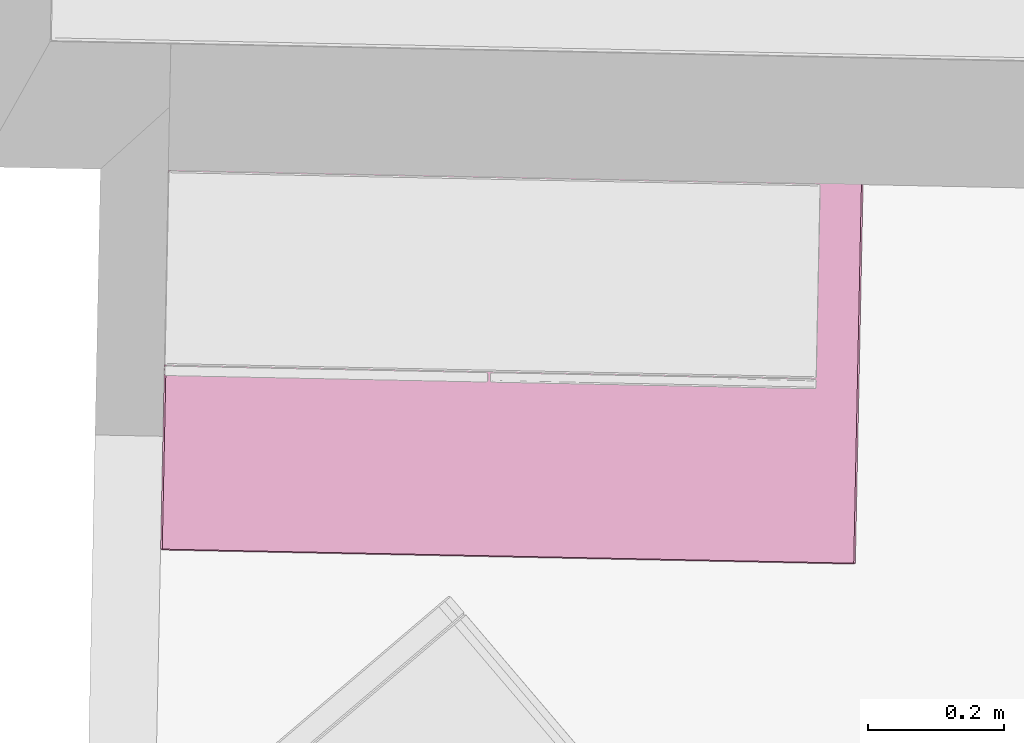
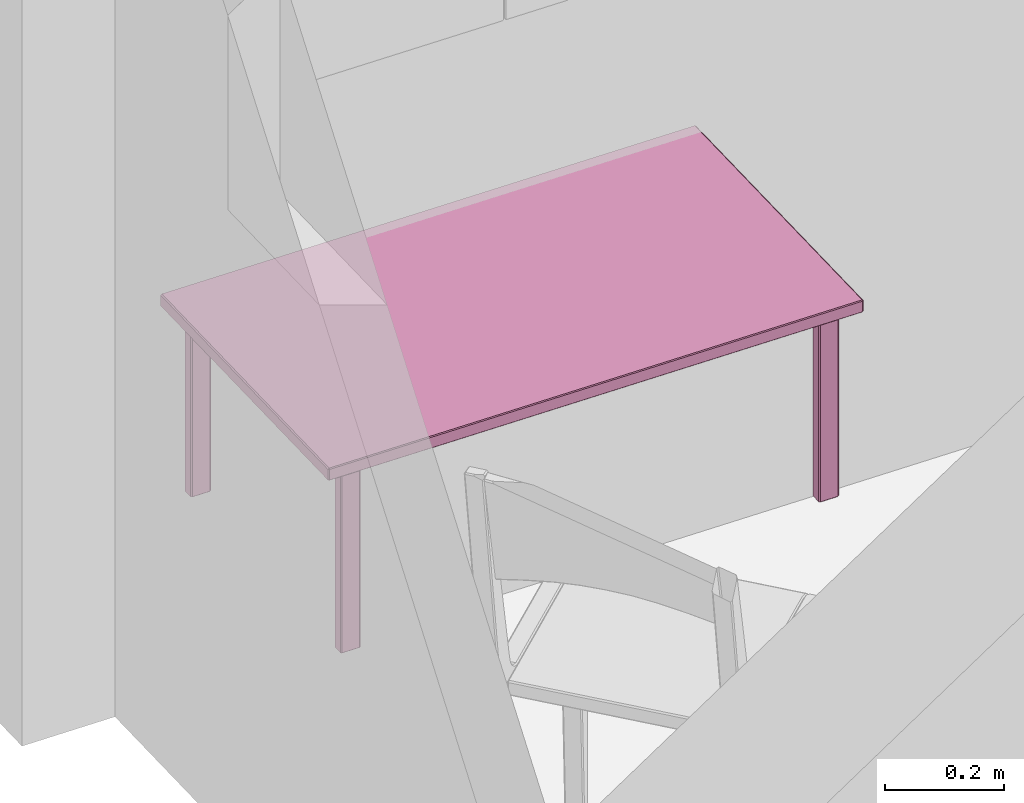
# One storey, part 2 of 8: 1 furnishing.
"""IFC2X3 building model written with IfcOpenShell, lengths in metres."""

from ifc_helpers import new_model, si_unit, frame, origin_with_axes, place, context, project, spatial, faceted_brep, type_object, element, save


model = new_model("IFC2X3")

# Units and contexts
model_context = context("Model", 3, precision=1e-05, world=origin_with_axes())
ifc_project = project(units=[si_unit("AREAUNIT", "SQUARE_METRE"), si_unit("LENGTHUNIT", "METRE")], contexts=[model_context])

# Site, building, storey, space
site_placement = place(None, origin_with_axes())
site = spatial("IfcSite", under=ifc_project, at=site_placement, Name="Site", CompositionType="ELEMENT")
building_placement = place(site_placement, origin_with_axes())
building = spatial("IfcBuilding", under=site, at=building_placement, Name="Building", CompositionType="ELEMENT")
storey_placement = place(building_placement, frame((0.0, 0.0, 2.8867046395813), z_axis=(0.0, 0.0, 1.0), x_axis=(1.0, 0.0, 0.0)))
storey = spatial("IfcBuildingStorey", under=building, at=storey_placement, Name="Story 1", CompositionType="ELEMENT", Elevation=2.8867045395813)
space_placement = place(storey_placement, frame((-7.6540163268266, -1.09431403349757, 0.0), z_axis=(0.0, 0.0, 1.0), x_axis=(1.0, 0.0, 0.0)))
space = spatial("IfcSpace", under=storey, at=space_placement, Name="008", CompositionType="ELEMENT", InteriorOrExteriorSpace="INTERNAL")

# Furnishing
furniture_type = type_object("IfcFurnitureType", Name="cf9d040f-a505-417f-be32-ec7ebc29aadf")
furnishing_placement = place(space_placement, frame((0.509489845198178, -0.276365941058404, 0.614910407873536), z_axis=(0.0, 0.0, 1.00000001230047), x_axis=(-0.0203700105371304, -0.999792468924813, 0.0)))
element("IfcFurnishingElement", 1, at=furnishing_placement, inside=space, type_object=furniture_type, Name="Table", ObjectType="Table", context=model_context, shape_type="Brep", body=[
    faceted_brep([(0.2908, 0.5125, 0.1784), (-0.2908, 0.5125, 0.1784), (0.2908, 0.5125, 0.2001), (-0.2908, 0.5125, 0.2001), (0.2908, 0.5125, 0.2001), (-0.2908, 0.5125, 0.1784), (0.2493, -0.4746, 0.183), (0.2493, -0.4409, 0.183), (0.2493, -0.4746, -0.2001), (0.2493, -0.4409, -0.2001), (0.2493, -0.4746, -0.2001), (0.2493, -0.4409, 0.183), (0.2699, -0.4771, 0.183), (0.2508, -0.4771, 0.183), (0.2699, -0.4771, -0.2001), (0.2508, -0.4771, -0.2001), (0.2699, -0.4771, -0.2001), (0.2508, -0.4771, 0.183), (0.2714, -0.4409, 0.183), (0.2714, -0.4746, 0.183), (0.2714, -0.4409, -0.2001), (0.2714, -0.4746, -0.2001), (0.2714, -0.4409, -0.2001), (0.2714, -0.4746, 0.183), (0.2508, -0.4384, 0.183), (0.2699, -0.4384, 0.183), (0.2508, -0.4384, -0.2001), (0.2699, -0.4384, -0.2001), (0.2508, -0.4384, -0.2001), (0.2699, -0.4384, 0.183), (0.2493, 0.4745, 0.183), (0.2493, 0.4745, -0.2001), (0.2493, 0.4409, 0.183), (0.2493, 0.4409, -0.2001), (0.2493, 0.4409, 0.183), (0.2493, 0.4745, -0.2001), (0.2699, 0.4771, 0.183), (0.2699, 0.4771, -0.2001), (0.2508, 0.4771, 0.183), (0.2508, 0.4771, -0.2001), (0.2508, 0.4771, 0.183), (0.2699, 0.4771, -0.2001), (0.2714, 0.4409, 0.183), (0.2714, 0.4409, -0.2001), (0.2714, 0.4745, 0.183), (0.2714, 0.4745, -0.2001), (0.2714, 0.4745, 0.183), (0.2714, 0.4409, -0.2001), (0.2508, 0.4384, 0.183), (0.2508, 0.4384, -0.2001), (0.2699, 0.4384, 0.183), (0.2699, 0.4384, -0.2001), (0.2699, 0.4384, 0.183), (0.2508, 0.4384, -0.2001), (0.2923, 0.51, 0.1784), (0.2923, 0.51, 0.2001), (0.2923, -0.51, 0.1784), (0.2923, -0.51, 0.2001), (0.2923, -0.51, 0.1784), (0.2923, 0.51, 0.2001), (-0.2923, 0.51, 0.2001), (-0.2923, 0.51, 0.1784), (-0.2923, -0.51, 0.2001), (-0.2923, -0.51, 0.1784), (-0.2923, -0.51, 0.2001), (-0.2923, 0.51, 0.1784), (-0.2493, -0.4746, 0.183), (-0.2493, -0.4746, -0.2001), (-0.2493, -0.4409, 0.183), (-0.2493, -0.4409, -0.2001), (-0.2493, -0.4409, 0.183), (-0.2493, -0.4746, -0.2001), (-0.2699, -0.4771, 0.183), (-0.2699, -0.4771, -0.2001), (-0.2508, -0.4771, 0.183), (-0.2508, -0.4771, -0.2001), (-0.2508, -0.4771, 0.183), (-0.2699, -0.4771, -0.2001), (-0.2714, -0.4409, 0.183), (-0.2714, -0.4409, -0.2001), (-0.2714, -0.4746, 0.183), (-0.2714, -0.4746, -0.2001), (-0.2714, -0.4746, 0.183), (-0.2714, -0.4409, -0.2001), (-0.2508, -0.4384, 0.183), (-0.2508, -0.4384, -0.2001), (-0.2699, -0.4384, 0.183), (-0.2699, -0.4384, -0.2001), (-0.2699, -0.4384, 0.183), (-0.2508, -0.4384, -0.2001), (-0.2493, 0.4745, 0.183), (-0.2493, 0.4409, 0.183), (-0.2493, 0.4745, -0.2001), (-0.2493, 0.4409, -0.2001), (-0.2493, 0.4745, -0.2001), (-0.2493, 0.4409, 0.183), (-0.2699, 0.4771, 0.183), (-0.2508, 0.4771, 0.183), (-0.2699, 0.4771, -0.2001), (-0.2508, 0.4771, -0.2001), (-0.2699, 0.4771, -0.2001), (-0.2508, 0.4771, 0.183), (-0.2714, 0.4409, 0.183), (-0.2714, 0.4745, 0.183), (-0.2714, 0.4409, -0.2001), (-0.2714, 0.4745, -0.2001), (-0.2714, 0.4409, -0.2001), (-0.2714, 0.4745, 0.183), (-0.2508, 0.4384, 0.183), (-0.2699, 0.4384, 0.183), (-0.2508, 0.4384, -0.2001), (-0.2699, 0.4384, -0.2001), (-0.2508, 0.4384, -0.2001), (-0.2699, 0.4384, 0.183), (-0.2908, 0.51, 0.2019), (-0.2908, -0.51, 0.2019), (0.2908, 0.51, 0.2019), (0.2908, -0.51, 0.2019), (0.2908, 0.51, 0.2019), (-0.2908, -0.51, 0.2019), (0.2908, -0.5125, 0.1784), (0.2908, -0.5125, 0.2001), (-0.2908, -0.5125, 0.1784), (-0.2908, -0.5125, 0.2001), (-0.2908, -0.5125, 0.1784), (0.2908, -0.5125, 0.2001), (0.2908, -0.51, 0.1767), (-0.2908, -0.51, 0.1767), (0.2908, 0.51, 0.1767), (-0.2908, 0.51, 0.1767), (0.2908, 0.51, 0.1767), (-0.2908, -0.51, 0.1767), (0.2699, -0.4746, 0.1848), (0.2699, -0.4409, 0.1848), (0.2508, -0.4746, 0.1848), (0.2508, -0.4409, 0.1848), (0.2508, -0.4746, 0.1848), (0.2699, -0.4409, 0.1848), (0.2699, -0.4409, -0.2019), (0.2699, -0.4746, -0.2019), (0.2508, -0.4409, -0.2019), (0.2508, -0.4746, -0.2019), (0.2508, -0.4409, -0.2019), (0.2699, -0.4746, -0.2019), (0.2699, 0.4745, -0.2019), (0.2699, 0.4409, -0.2019), (0.2508, 0.4745, -0.2019), (0.2508, 0.4409, -0.2019), (0.2508, 0.4745, -0.2019), (0.2699, 0.4409, -0.2019), (0.2699, 0.4409, 0.1848), (0.2699, 0.4745, 0.1848), (0.2508, 0.4409, 0.1848), (0.2508, 0.4745, 0.1848), (0.2508, 0.4409, 0.1848), (0.2699, 0.4745, 0.1848), (-0.2699, -0.4746, -0.2019), (-0.2699, -0.4409, -0.2019), (-0.2508, -0.4746, -0.2019), (-0.2508, -0.4409, -0.2019), (-0.2508, -0.4746, -0.2019), (-0.2699, -0.4409, -0.2019), (-0.2699, -0.4409, 0.1848), (-0.2699, -0.4746, 0.1848), (-0.2508, -0.4409, 0.1848), (-0.2508, -0.4746, 0.1848), (-0.2508, -0.4409, 0.1848), (-0.2699, -0.4746, 0.1848), (-0.2699, 0.4745, 0.1848), (-0.2699, 0.4409, 0.1848), (-0.2508, 0.4745, 0.1848), (-0.2508, 0.4409, 0.1848), (-0.2508, 0.4745, 0.1848), (-0.2699, 0.4409, 0.1848), (-0.2699, 0.4409, -0.2019), (-0.2699, 0.4745, -0.2019), (-0.2508, 0.4409, -0.2019), (-0.2508, 0.4745, -0.2019), (-0.2508, 0.4409, -0.2019), (-0.2699, 0.4745, -0.2019), (-0.2908, 0.51, 0.2019), (-0.2908, 0.5125, 0.2001), (-0.2923, 0.51, 0.2001), (0.2508, -0.4409, -0.2019), (0.2493, -0.4409, -0.2001), (0.2508, -0.4384, -0.2001), (0.2508, -0.4746, -0.2019), (0.2508, -0.4771, -0.2001), (0.2493, -0.4746, -0.2001), (0.2699, -0.4746, -0.2019), (0.2714, -0.4746, -0.2001), (0.2699, -0.4771, -0.2001), (0.2699, -0.4409, -0.2019), (0.2699, -0.4384, -0.2001), (0.2714, -0.4409, -0.2001), (0.2508, -0.4409, 0.1848), (0.2508, -0.4384, 0.183), (0.2493, -0.4409, 0.183), (0.2508, 0.4384, -0.2001), (0.2493, 0.4409, -0.2001), (0.2508, 0.4409, -0.2019), (0.2508, 0.4745, 0.1848), (0.2508, 0.4771, 0.183), (0.2493, 0.4745, 0.183), (0.2699, 0.4745, 0.1848), (0.2714, 0.4745, 0.183), (0.2699, 0.4771, 0.183), (0.2699, 0.4409, 0.1848), (0.2699, 0.4384, 0.183), (0.2714, 0.4409, 0.183), (0.2908, -0.5125, 0.2001), (0.2923, -0.51, 0.2001), (0.2908, -0.51, 0.2019), (0.2908, 0.51, 0.2019), (0.2923, 0.51, 0.2001), (0.2908, 0.5125, 0.2001), (-0.2908, -0.5125, 0.1784), (-0.2923, -0.51, 0.1784), (-0.2908, -0.51, 0.1767), (-0.2908, 0.51, 0.1767), (-0.2923, 0.51, 0.1784), (-0.2908, 0.5125, 0.1784), (-0.2508, -0.4384, -0.2001), (-0.2493, -0.4409, -0.2001), (-0.2508, -0.4409, -0.2019), (-0.2508, -0.4746, 0.1848), (-0.2508, -0.4771, 0.183), (-0.2493, -0.4746, 0.183), (-0.2699, -0.4746, 0.1848), (-0.2714, -0.4746, 0.183), (-0.2699, -0.4771, 0.183), (-0.2699, -0.4409, 0.1848), (-0.2699, -0.4384, 0.183), (-0.2714, -0.4409, 0.183), (-0.2508, 0.4409, -0.2019), (-0.2493, 0.4409, -0.2001), (-0.2508, 0.4384, -0.2001), (-0.2508, 0.4745, -0.2019), (-0.2508, 0.4771, -0.2001), (-0.2493, 0.4745, -0.2001), (-0.2699, 0.4745, -0.2019), (-0.2714, 0.4745, -0.2001), (-0.2699, 0.4771, -0.2001), (-0.2699, 0.4409, -0.2019), (-0.2699, 0.4384, -0.2001), (-0.2714, 0.4409, -0.2001), (-0.2508, 0.4409, 0.1848), (-0.2508, 0.4384, 0.183), (-0.2493, 0.4409, 0.183), (-0.2908, -0.5125, 0.2001), (-0.2908, -0.51, 0.2019), (-0.2923, -0.51, 0.2001), (0.2908, -0.5125, 0.1784), (0.2908, -0.51, 0.1767), (0.2923, -0.51, 0.1784), (0.2923, 0.51, 0.1784), (0.2908, 0.51, 0.1767), (0.2908, 0.5125, 0.1784), (0.2699, -0.4384, 0.183), (0.2699, -0.4409, 0.1848), (0.2714, -0.4409, 0.183), (0.2714, -0.4746, 0.183), (0.2699, -0.4746, 0.1848), (0.2699, -0.4771, 0.183), (0.2508, -0.4771, 0.183), (0.2508, -0.4746, 0.1848), (0.2493, -0.4746, 0.183), (0.2699, 0.4384, -0.2001), (0.2699, 0.4409, -0.2019), (0.2714, 0.4409, -0.2001), (0.2714, 0.4745, -0.2001), (0.2699, 0.4745, -0.2019), (0.2699, 0.4771, -0.2001), (0.2508, 0.4771, -0.2001), (0.2508, 0.4745, -0.2019), (0.2493, 0.4745, -0.2001), (0.2508, 0.4384, 0.183), (0.2508, 0.4409, 0.1848), (0.2493, 0.4409, 0.183), (-0.2699, -0.4384, -0.2001), (-0.2699, -0.4409, -0.2019), (-0.2714, -0.4409, -0.2001), (-0.2714, -0.4746, -0.2001), (-0.2699, -0.4746, -0.2019), (-0.2699, -0.4771, -0.2001), (-0.2508, -0.4771, -0.2001), (-0.2508, -0.4746, -0.2019), (-0.2493, -0.4746, -0.2001), (-0.2508, -0.4384, 0.183), (-0.2508, -0.4409, 0.1848), (-0.2493, -0.4409, 0.183), (-0.2699, 0.4384, 0.183), (-0.2699, 0.4409, 0.1848), (-0.2714, 0.4409, 0.183), (-0.2714, 0.4745, 0.183), (-0.2699, 0.4745, 0.1848), (-0.2699, 0.4771, 0.183), (-0.2508, 0.4771, 0.183), (-0.2508, 0.4745, 0.1848), (-0.2493, 0.4745, 0.183), (-0.2908, 0.5125, 0.2001), (-0.2908, 0.5125, 0.1784), (-0.2923, 0.51, 0.2001), (-0.2923, 0.51, 0.1784), (-0.2923, 0.51, 0.2001), (-0.2908, 0.5125, 0.1784), (-0.2908, 0.5125, 0.1784), (0.2908, 0.5125, 0.1784), (-0.2908, 0.51, 0.1767), (0.2908, 0.51, 0.1767), (-0.2908, 0.51, 0.1767), (0.2908, 0.5125, 0.1784), (0.2908, 0.5125, 0.1784), (0.2908, 0.5125, 0.2001), (0.2923, 0.51, 0.1784), (0.2923, 0.51, 0.2001), (0.2923, 0.51, 0.1784), (0.2908, 0.5125, 0.2001), (0.2908, 0.5125, 0.2001), (-0.2908, 0.5125, 0.2001), (0.2908, 0.51, 0.2019), (-0.2908, 0.51, 0.2019), (0.2908, 0.51, 0.2019), (-0.2908, 0.5125, 0.2001), (0.2493, -0.4409, -0.2001), (0.2493, -0.4409, 0.183), (0.2508, -0.4384, -0.2001), (0.2508, -0.4384, 0.183), (0.2508, -0.4384, -0.2001), (0.2493, -0.4409, 0.183), (0.2493, -0.4409, 0.183), (0.2493, -0.4746, 0.183), (0.2508, -0.4409, 0.1848), (0.2508, -0.4746, 0.1848), (0.2508, -0.4409, 0.1848), (0.2493, -0.4746, 0.183), (0.2493, -0.4746, 0.183), (0.2493, -0.4746, -0.2001), (0.2508, -0.4771, 0.183), (0.2508, -0.4771, -0.2001), (0.2508, -0.4771, 0.183), (0.2493, -0.4746, -0.2001), (0.2493, -0.4746, -0.2001), (0.2493, -0.4409, -0.2001), (0.2508, -0.4746, -0.2019), (0.2508, -0.4409, -0.2019), (0.2508, -0.4746, -0.2019), (0.2493, -0.4409, -0.2001), (0.2508, -0.4771, 0.183), (0.2699, -0.4771, 0.183), (0.2508, -0.4746, 0.1848), (0.2699, -0.4746, 0.1848), (0.2508, -0.4746, 0.1848), (0.2699, -0.4771, 0.183), (0.2699, -0.4771, 0.183), (0.2699, -0.4771, -0.2001), (0.2714, -0.4746, 0.183), (0.2714, -0.4746, -0.2001), (0.2714, -0.4746, 0.183), (0.2699, -0.4771, -0.2001), (0.2699, -0.4771, -0.2001), (0.2508, -0.4771, -0.2001), (0.2699, -0.4746, -0.2019), (0.2508, -0.4746, -0.2019), (0.2699, -0.4746, -0.2019), (0.2508, -0.4771, -0.2001), (0.2714, -0.4746, 0.183), (0.2714, -0.4409, 0.183), (0.2699, -0.4746, 0.1848), (0.2699, -0.4409, 0.1848), (0.2699, -0.4746, 0.1848), (0.2714, -0.4409, 0.183), (0.2714, -0.4409, 0.183), (0.2714, -0.4409, -0.2001), (0.2699, -0.4384, 0.183), (0.2699, -0.4384, -0.2001), (0.2699, -0.4384, 0.183), (0.2714, -0.4409, -0.2001), (0.2714, -0.4409, -0.2001), (0.2714, -0.4746, -0.2001), (0.2699, -0.4409, -0.2019), (0.2699, -0.4746, -0.2019), (0.2699, -0.4409, -0.2019), (0.2714, -0.4746, -0.2001), (0.2699, -0.4384, 0.183), (0.2508, -0.4384, 0.183), (0.2699, -0.4409, 0.1848), (0.2508, -0.4409, 0.1848), (0.2699, -0.4409, 0.1848), (0.2508, -0.4384, 0.183), (0.2508, -0.4384, -0.2001), (0.2699, -0.4384, -0.2001), (0.2508, -0.4409, -0.2019), (0.2699, -0.4409, -0.2019), (0.2508, -0.4409, -0.2019), (0.2699, -0.4384, -0.2001), (0.2493, 0.4409, -0.2001), (0.2493, 0.4745, -0.2001), (0.2508, 0.4409, -0.2019), (0.2508, 0.4745, -0.2019), (0.2508, 0.4409, -0.2019), (0.2493, 0.4745, -0.2001), (0.2493, 0.4745, -0.2001), (0.2493, 0.4745, 0.183), (0.2508, 0.4771, -0.2001), (0.2508, 0.4771, 0.183), (0.2508, 0.4771, -0.2001), (0.2493, 0.4745, 0.183), (0.2493, 0.4745, 0.183), (0.2493, 0.4409, 0.183), (0.2508, 0.4745, 0.1848), (0.2508, 0.4409, 0.1848), (0.2508, 0.4745, 0.1848), (0.2493, 0.4409, 0.183), (0.2493, 0.4409, 0.183), (0.2493, 0.4409, -0.2001), (0.2508, 0.4384, 0.183), (0.2508, 0.4384, -0.2001), (0.2508, 0.4384, 0.183), (0.2493, 0.4409, -0.2001), (0.2508, 0.4771, -0.2001), (0.2699, 0.4771, -0.2001), (0.2508, 0.4745, -0.2019), (0.2699, 0.4745, -0.2019), (0.2508, 0.4745, -0.2019), (0.2699, 0.4771, -0.2001), (0.2699, 0.4771, -0.2001), (0.2699, 0.4771, 0.183), (0.2714, 0.4745, -0.2001), (0.2714, 0.4745, 0.183), (0.2714, 0.4745, -0.2001), (0.2699, 0.4771, 0.183), (0.2699, 0.4771, 0.183), (0.2508, 0.4771, 0.183), (0.2699, 0.4745, 0.1848), (0.2508, 0.4745, 0.1848), (0.2699, 0.4745, 0.1848), (0.2508, 0.4771, 0.183), (0.2714, 0.4745, -0.2001), (0.2714, 0.4409, -0.2001), (0.2699, 0.4745, -0.2019), (0.2699, 0.4409, -0.2019), (0.2699, 0.4745, -0.2019), (0.2714, 0.4409, -0.2001), (0.2714, 0.4409, -0.2001), (0.2714, 0.4409, 0.183), (0.2699, 0.4384, -0.2001), (0.2699, 0.4384, 0.183), (0.2699, 0.4384, -0.2001), (0.2714, 0.4409, 0.183), (0.2714, 0.4409, 0.183), (0.2714, 0.4745, 0.183), (0.2699, 0.4409, 0.1848), (0.2699, 0.4745, 0.1848), (0.2699, 0.4409, 0.1848), (0.2714, 0.4745, 0.183), (0.2699, 0.4384, -0.2001), (0.2508, 0.4384, -0.2001), (0.2699, 0.4409, -0.2019), (0.2508, 0.4409, -0.2019), (0.2699, 0.4409, -0.2019), (0.2508, 0.4384, -0.2001), (0.2508, 0.4384, 0.183), (0.2699, 0.4384, 0.183), (0.2508, 0.4409, 0.1848), (0.2699, 0.4409, 0.1848), (0.2508, 0.4409, 0.1848), (0.2699, 0.4384, 0.183), (0.2923, -0.51, 0.2001), (0.2923, 0.51, 0.2001), (0.2908, -0.51, 0.2019), (0.2908, 0.51, 0.2019), (0.2908, -0.51, 0.2019), (0.2923, 0.51, 0.2001), (0.2923, 0.51, 0.1784), (0.2923, -0.51, 0.1784), (0.2908, 0.51, 0.1767), (0.2908, -0.51, 0.1767), (0.2908, 0.51, 0.1767), (0.2923, -0.51, 0.1784), (0.2923, -0.51, 0.1784), (0.2923, -0.51, 0.2001), (0.2908, -0.5125, 0.1784), (0.2908, -0.5125, 0.2001), (0.2908, -0.5125, 0.1784), (0.2923, -0.51, 0.2001), (-0.2923, -0.51, 0.1784), (-0.2923, 0.51, 0.1784), (-0.2908, -0.51, 0.1767), (-0.2908, 0.51, 0.1767), (-0.2908, -0.51, 0.1767), (-0.2923, 0.51, 0.1784), (-0.2923, 0.51, 0.2001), (-0.2923, -0.51, 0.2001), (-0.2908, 0.51, 0.2019), (-0.2908, -0.51, 0.2019), (-0.2908, 0.51, 0.2019), (-0.2923, -0.51, 0.2001), (-0.2923, -0.51, 0.2001), (-0.2923, -0.51, 0.1784), (-0.2908, -0.5125, 0.2001), (-0.2908, -0.5125, 0.1784), (-0.2908, -0.5125, 0.2001), (-0.2923, -0.51, 0.1784), (-0.2493, -0.4409, -0.2001), (-0.2493, -0.4746, -0.2001), (-0.2508, -0.4409, -0.2019), (-0.2508, -0.4746, -0.2019), (-0.2508, -0.4409, -0.2019), (-0.2493, -0.4746, -0.2001), (-0.2493, -0.4746, -0.2001), (-0.2493, -0.4746, 0.183), (-0.2508, -0.4771, -0.2001), (-0.2508, -0.4771, 0.183), (-0.2508, -0.4771, -0.2001), (-0.2493, -0.4746, 0.183), (-0.2493, -0.4746, 0.183), (-0.2493, -0.4409, 0.183), (-0.2508, -0.4746, 0.1848), (-0.2508, -0.4409, 0.1848), (-0.2508, -0.4746, 0.1848), (-0.2493, -0.4409, 0.183), (-0.2493, -0.4409, 0.183), (-0.2493, -0.4409, -0.2001), (-0.2508, -0.4384, 0.183), (-0.2508, -0.4384, -0.2001), (-0.2508, -0.4384, 0.183), (-0.2493, -0.4409, -0.2001), (-0.2508, -0.4771, -0.2001), (-0.2699, -0.4771, -0.2001), (-0.2508, -0.4746, -0.2019), (-0.2699, -0.4746, -0.2019), (-0.2508, -0.4746, -0.2019), (-0.2699, -0.4771, -0.2001), (-0.2699, -0.4771, -0.2001), (-0.2699, -0.4771, 0.183), (-0.2714, -0.4746, -0.2001), (-0.2714, -0.4746, 0.183), (-0.2714, -0.4746, -0.2001), (-0.2699, -0.4771, 0.183), (-0.2699, -0.4771, 0.183), (-0.2508, -0.4771, 0.183), (-0.2699, -0.4746, 0.1848), (-0.2508, -0.4746, 0.1848), (-0.2699, -0.4746, 0.1848), (-0.2508, -0.4771, 0.183), (-0.2714, -0.4746, -0.2001), (-0.2714, -0.4409, -0.2001), (-0.2699, -0.4746, -0.2019), (-0.2699, -0.4409, -0.2019), (-0.2699, -0.4746, -0.2019), (-0.2714, -0.4409, -0.2001), (-0.2714, -0.4409, -0.2001), (-0.2714, -0.4409, 0.183), (-0.2699, -0.4384, -0.2001), (-0.2699, -0.4384, 0.183), (-0.2699, -0.4384, -0.2001), (-0.2714, -0.4409, 0.183), (-0.2714, -0.4409, 0.183), (-0.2714, -0.4746, 0.183), (-0.2699, -0.4409, 0.1848), (-0.2699, -0.4746, 0.1848), (-0.2699, -0.4409, 0.1848), (-0.2714, -0.4746, 0.183), (-0.2699, -0.4384, -0.2001), (-0.2508, -0.4384, -0.2001), (-0.2699, -0.4409, -0.2019), (-0.2508, -0.4409, -0.2019), (-0.2699, -0.4409, -0.2019), (-0.2508, -0.4384, -0.2001), (-0.2508, -0.4384, 0.183), (-0.2699, -0.4384, 0.183), (-0.2508, -0.4409, 0.1848), (-0.2699, -0.4409, 0.1848), (-0.2508, -0.4409, 0.1848), (-0.2699, -0.4384, 0.183), (-0.2493, 0.4409, -0.2001), (-0.2493, 0.4409, 0.183), (-0.2508, 0.4384, -0.2001), (-0.2508, 0.4384, 0.183), (-0.2508, 0.4384, -0.2001), (-0.2493, 0.4409, 0.183), (-0.2493, 0.4409, 0.183), (-0.2493, 0.4745, 0.183), (-0.2508, 0.4409, 0.1848), (-0.2508, 0.4745, 0.1848), (-0.2508, 0.4409, 0.1848), (-0.2493, 0.4745, 0.183), (-0.2493, 0.4745, 0.183), (-0.2493, 0.4745, -0.2001), (-0.2508, 0.4771, 0.183), (-0.2508, 0.4771, -0.2001), (-0.2508, 0.4771, 0.183), (-0.2493, 0.4745, -0.2001), (-0.2493, 0.4745, -0.2001), (-0.2493, 0.4409, -0.2001), (-0.2508, 0.4745, -0.2019), (-0.2508, 0.4409, -0.2019), (-0.2508, 0.4745, -0.2019), (-0.2493, 0.4409, -0.2001), (-0.2508, 0.4771, 0.183), (-0.2699, 0.4771, 0.183), (-0.2508, 0.4745, 0.1848), (-0.2699, 0.4745, 0.1848), (-0.2508, 0.4745, 0.1848), (-0.2699, 0.4771, 0.183), (-0.2699, 0.4771, 0.183), (-0.2699, 0.4771, -0.2001), (-0.2714, 0.4745, 0.183), (-0.2714, 0.4745, -0.2001), (-0.2714, 0.4745, 0.183), (-0.2699, 0.4771, -0.2001), (-0.2699, 0.4771, -0.2001), (-0.2508, 0.4771, -0.2001), (-0.2699, 0.4745, -0.2019), (-0.2508, 0.4745, -0.2019), (-0.2699, 0.4745, -0.2019), (-0.2508, 0.4771, -0.2001), (-0.2714, 0.4745, 0.183), (-0.2714, 0.4409, 0.183), (-0.2699, 0.4745, 0.1848), (-0.2699, 0.4409, 0.1848), (-0.2699, 0.4745, 0.1848), (-0.2714, 0.4409, 0.183), (-0.2714, 0.4409, 0.183), (-0.2714, 0.4409, -0.2001), (-0.2699, 0.4384, 0.183), (-0.2699, 0.4384, -0.2001), (-0.2699, 0.4384, 0.183), (-0.2714, 0.4409, -0.2001), (-0.2714, 0.4409, -0.2001), (-0.2714, 0.4745, -0.2001), (-0.2699, 0.4409, -0.2019), (-0.2699, 0.4745, -0.2019), (-0.2699, 0.4409, -0.2019), (-0.2714, 0.4745, -0.2001), (-0.2699, 0.4384, 0.183), (-0.2508, 0.4384, 0.183), (-0.2699, 0.4409, 0.1848), (-0.2508, 0.4409, 0.1848), (-0.2699, 0.4409, 0.1848), (-0.2508, 0.4384, 0.183), (-0.2508, 0.4384, -0.2001), (-0.2699, 0.4384, -0.2001), (-0.2508, 0.4409, -0.2019), (-0.2699, 0.4409, -0.2019), (-0.2508, 0.4409, -0.2019), (-0.2699, 0.4384, -0.2001), (0.2908, -0.51, 0.2019), (-0.2908, -0.51, 0.2019), (0.2908, -0.5125, 0.2001), (-0.2908, -0.5125, 0.2001), (0.2908, -0.5125, 0.2001), (-0.2908, -0.51, 0.2019), (0.2908, -0.5125, 0.1784), (-0.2908, -0.5125, 0.1784), (0.2908, -0.51, 0.1767), (-0.2908, -0.51, 0.1767), (0.2908, -0.51, 0.1767), (-0.2908, -0.5125, 0.1784)], [[[0, 1, 2]], [[3, 4, 5]], [[6, 7, 8]], [[9, 10, 11]], [[12, 13, 14]], [[15, 16, 17]], [[18, 19, 20]], [[21, 22, 23]], [[24, 25, 26]], [[27, 28, 29]], [[30, 31, 32]], [[33, 34, 35]], [[36, 37, 38]], [[39, 40, 41]], [[42, 43, 44]], [[45, 46, 47]], [[48, 49, 50]], [[51, 52, 53]], [[54, 55, 56]], [[57, 58, 59]], [[60, 61, 62]], [[63, 64, 65]], [[66, 67, 68]], [[69, 70, 71]], [[72, 73, 74]], [[75, 76, 77]], [[78, 79, 80]], [[81, 82, 83]], [[84, 85, 86]], [[87, 88, 89]], [[90, 91, 92]], [[93, 94, 95]], [[96, 97, 98]], [[99, 100, 101]], [[102, 103, 104]], [[105, 106, 107]], [[108, 109, 110]], [[111, 112, 113]], [[114, 115, 116]], [[117, 118, 119]], [[120, 121, 122]], [[123, 124, 125]], [[126, 127, 128]], [[129, 130, 131]], [[132, 133, 134]], [[135, 136, 137]], [[138, 139, 140]], [[141, 142, 143]], [[144, 145, 146]], [[147, 148, 149]], [[150, 151, 152]], [[153, 154, 155]], [[156, 157, 158]], [[159, 160, 161]], [[162, 163, 164]], [[165, 166, 167]], [[168, 169, 170]], [[171, 172, 173]], [[174, 175, 176]], [[177, 178, 179]], [[180, 181, 182]], [[183, 184, 185]], [[186, 187, 188]], [[189, 190, 191]], [[192, 193, 194]], [[195, 196, 197]], [[198, 199, 200]], [[201, 202, 203]], [[204, 205, 206]], [[207, 208, 209]], [[210, 211, 212]], [[213, 214, 215]], [[216, 217, 218]], [[219, 220, 221]], [[222, 223, 224]], [[225, 226, 227]], [[228, 229, 230]], [[231, 232, 233]], [[234, 235, 236]], [[237, 238, 239]], [[240, 241, 242]], [[243, 244, 245]], [[246, 247, 248]], [[249, 250, 251]], [[252, 253, 254]], [[255, 256, 257]], [[258, 259, 260]], [[261, 262, 263]], [[264, 265, 266]], [[267, 268, 269]], [[270, 271, 272]], [[273, 274, 275]], [[276, 277, 278]], [[279, 280, 281]], [[282, 283, 284]], [[285, 286, 287]], [[288, 289, 290]], [[291, 292, 293]], [[294, 295, 296]], [[297, 298, 299]], [[300, 301, 302]], [[303, 304, 305]], [[306, 307, 308]], [[309, 310, 311]], [[312, 313, 314]], [[315, 316, 317]], [[318, 319, 320]], [[321, 322, 323]], [[324, 325, 326]], [[327, 328, 329]], [[330, 331, 332]], [[333, 334, 335]], [[336, 337, 338]], [[339, 340, 341]], [[342, 343, 344]], [[345, 346, 347]], [[348, 349, 350]], [[351, 352, 353]], [[354, 355, 356]], [[357, 358, 359]], [[360, 361, 362]], [[363, 364, 365]], [[366, 367, 368]], [[369, 370, 371]], [[372, 373, 374]], [[375, 376, 377]], [[378, 379, 380]], [[381, 382, 383]], [[384, 385, 386]], [[387, 388, 389]], [[390, 391, 392]], [[393, 394, 395]], [[396, 397, 398]], [[399, 400, 401]], [[402, 403, 404]], [[405, 406, 407]], [[408, 409, 410]], [[411, 412, 413]], [[414, 415, 416]], [[417, 418, 419]], [[420, 421, 422]], [[423, 424, 425]], [[426, 427, 428]], [[429, 430, 431]], [[432, 433, 434]], [[435, 436, 437]], [[438, 439, 440]], [[441, 442, 443]], [[444, 445, 446]], [[447, 448, 449]], [[450, 451, 452]], [[453, 454, 455]], [[456, 457, 458]], [[459, 460, 461]], [[462, 463, 464]], [[465, 466, 467]], [[468, 469, 470]], [[471, 472, 473]], [[474, 475, 476]], [[477, 478, 479]], [[480, 481, 482]], [[483, 484, 485]], [[486, 487, 488]], [[489, 490, 491]], [[492, 493, 494]], [[495, 496, 497]], [[498, 499, 500]], [[501, 502, 503]], [[504, 505, 506]], [[507, 508, 509]], [[510, 511, 512]], [[513, 514, 515]], [[516, 517, 518]], [[519, 520, 521]], [[522, 523, 524]], [[525, 526, 527]], [[528, 529, 530]], [[531, 532, 533]], [[534, 535, 536]], [[537, 538, 539]], [[540, 541, 542]], [[543, 544, 545]], [[546, 547, 548]], [[549, 550, 551]], [[552, 553, 554]], [[555, 556, 557]], [[558, 559, 560]], [[561, 562, 563]], [[564, 565, 566]], [[567, 568, 569]], [[570, 571, 572]], [[573, 574, 575]], [[576, 577, 578]], [[579, 580, 581]], [[582, 583, 584]], [[585, 586, 587]], [[588, 589, 590]], [[591, 592, 593]], [[594, 595, 596]], [[597, 598, 599]], [[600, 601, 602]], [[603, 604, 605]], [[606, 607, 608]], [[609, 610, 611]], [[612, 613, 614]], [[615, 616, 617]], [[618, 619, 620]], [[621, 622, 623]], [[624, 625, 626]], [[627, 628, 629]], [[630, 631, 632]], [[633, 634, 635]], [[636, 637, 638]], [[639, 640, 641]], [[642, 643, 644]], [[645, 646, 647]], [[648, 649, 650]], [[651, 652, 653]], [[654, 655, 656]], [[657, 658, 659]]]),
])

save(model, "model.ifc")
